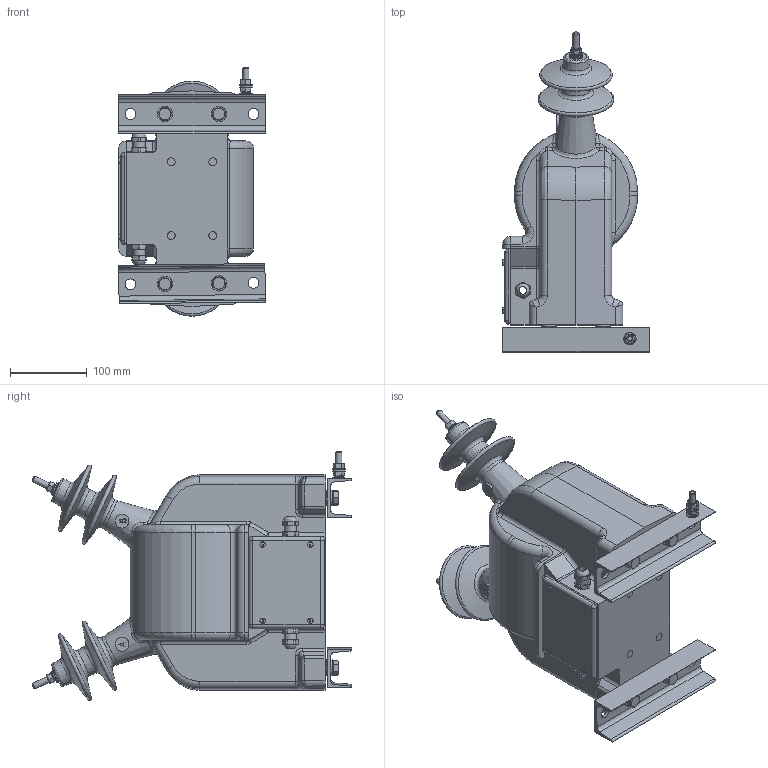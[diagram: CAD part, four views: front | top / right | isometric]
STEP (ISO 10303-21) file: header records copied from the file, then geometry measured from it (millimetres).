
FILE_DESCRIPTION(('STEP AP203'), '1');
FILE_NAME('ﾎﾋ-ﾍﾒﾇ-0,63-6(10)-IV-01', '2021-08-27T11:03:42', ('UNSPECIFIED'), ('UNSPECIFIED'), 'ASCON STEP Converter 1.3', 'ASCON Math Kernel', '');
FILE_SCHEMA(('CONFIG_CONTROL_DESIGN'));
Length unit declared in the file: millimetre
Products named in the file (16): 1
Assembly tree (40 placements, depth 3):
  1
    (unnamed)
    (unnamed)
    (unnamed)  x2
    (unnamed)  x4
    (unnamed)  x4
    (unnamed)
    (unnamed)
    (unnamed)
      (unnamed)
      (unnamed)  x3
      (unnamed)
      (unnamed)  x2
    (unnamed)  x2
    (unnamed)  x2
    (unnamed)  x2
    (unnamed)  x4
    (unnamed)  x4
    (unnamed)  x4
Bounding box: 190.57 x 415.6 x 322.74 mm (x, y, z)
Volume: 9640523.2 mm3; surface area: 1189496.3 mm2
Topology: 40 solids, 41 shells, 1236 faces, 2885 edges, 1761 vertices
Faces by surface type: cylinder 505, plane 452, bspline 104, cone 89, torus 74, sphere 12
Full cylindrical faces by diameter (mm): 4 x12, 5 x4, 6.647 x4, 7 x4, 8 x5, 8.38 x4, 8.4 x5, 10 x10, 11 x4, 12 x4, 14 x4, 15 x4, 16 x13, 18 x8, 19 x12, 20 x4, 100 x4, 107 x2, 135 x4
Entity records: 50430 total; most frequent: CARTESIAN_POINT 18753, DIRECTION 4796, ORIENTED_EDGE 4418, EDGE_CURVE 2213, AXIS2_PLACEMENT_3D 1912, VERTEX_POINT 1447, EDGE_LOOP 1250, SURFACE_SIDE_STYLE 1009
